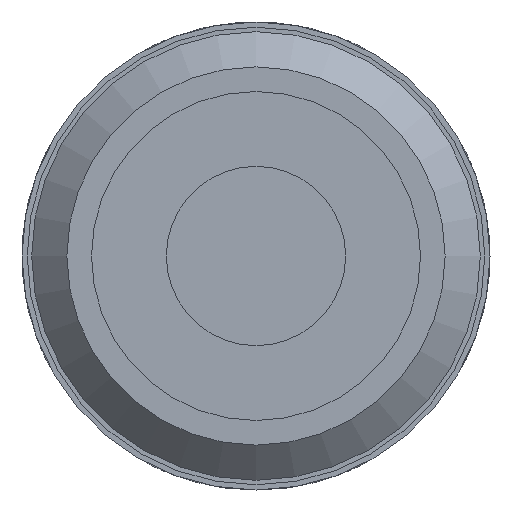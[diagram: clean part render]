
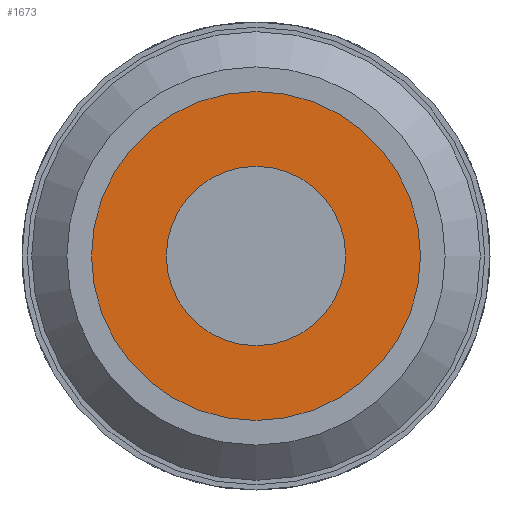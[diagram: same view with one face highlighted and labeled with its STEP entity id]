
A CAD part, left-side view. The second image highlights one B-rep face of the part: STEP entity #1673.
In plain terms, the highlighted planar face has unit normal (-1, 0, 0).
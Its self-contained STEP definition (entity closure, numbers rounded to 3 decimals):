
#81 = CIRCLE ( 'NONE', #1946, 3. ) ;
#107 = EDGE_LOOP ( 'NONE', ( #316 ) ) ;
#180 = PLANE ( 'NONE',  #487 ) ;
#211 = EDGE_LOOP ( 'NONE', ( #2719 ) ) ;
#316 = ORIENTED_EDGE ( 'NONE', *, *, #2578, .F. ) ;
#413 = CARTESIAN_POINT ( 'NONE',  ( -74.5, 0., 0. ) ) ;
#463 = DIRECTION ( 'NONE',  ( -1., 0., 0. ) ) ;
#471 = DIRECTION ( 'NONE',  ( 0., 0., -1. ) ) ;
#487 = AXIS2_PLACEMENT_3D ( 'NONE', #3158, #1784, #471 ) ;
#668 = VERTEX_POINT ( 'NONE', #2866 ) ;
#1093 = CIRCLE ( 'NONE', #2078, 5.5 ) ;
#1241 = DIRECTION ( 'NONE',  ( 0., 0., -1. ) ) ;
#1299 = DIRECTION ( 'NONE',  ( 0., 0., 1. ) ) ;
#1673 = ADVANCED_FACE ( 'NONE', ( #2908, #2187 ), #180, .F. ) ;
#1784 = DIRECTION ( 'NONE',  ( 1., 0., 0. ) ) ;
#1946 = AXIS2_PLACEMENT_3D ( 'NONE', #2909, #463, #1299 ) ;
#2059 = CARTESIAN_POINT ( 'NONE',  ( -74.5, 0., -5.5 ) ) ;
#2078 = AXIS2_PLACEMENT_3D ( 'NONE', #413, #2319, #1241 ) ;
#2187 = FACE_OUTER_BOUND ( 'NONE', #107, .T. ) ;
#2319 = DIRECTION ( 'NONE',  ( 1., 0., 0. ) ) ;
#2578 = EDGE_CURVE ( 'NONE', #3164, #3164, #1093, .T. ) ;
#2648 = EDGE_CURVE ( 'NONE', #668, #668, #81, .T. ) ;
#2719 = ORIENTED_EDGE ( 'NONE', *, *, #2648, .F. ) ;
#2866 = CARTESIAN_POINT ( 'NONE',  ( -74.5, 0., 3. ) ) ;
#2908 = FACE_BOUND ( 'NONE', #211, .T. ) ;
#2909 = CARTESIAN_POINT ( 'NONE',  ( -74.5, 0., 0. ) ) ;
#3158 = CARTESIAN_POINT ( 'NONE',  ( -74.5, 0., 0. ) ) ;
#3164 = VERTEX_POINT ( 'NONE', #2059 ) ;
